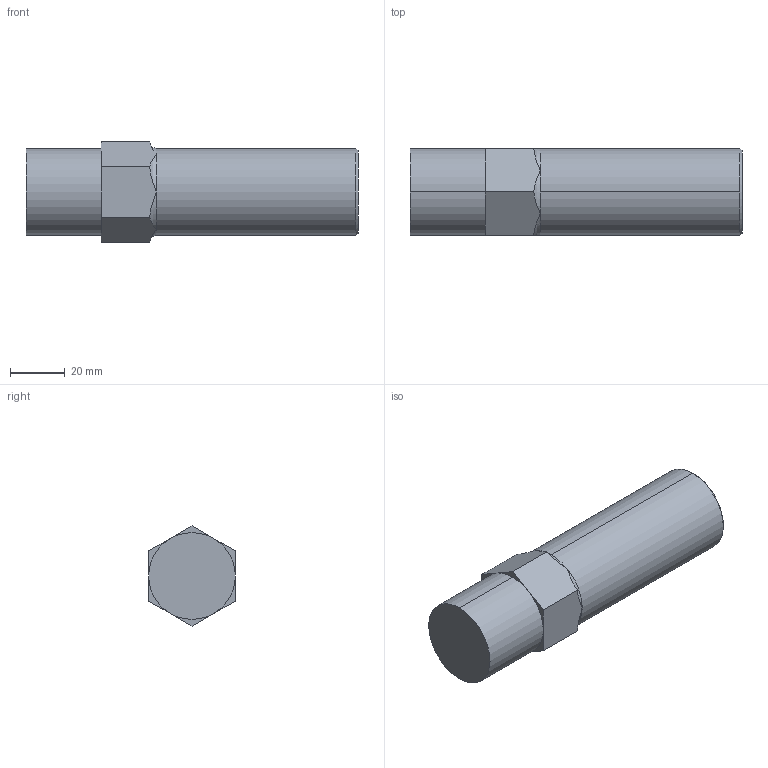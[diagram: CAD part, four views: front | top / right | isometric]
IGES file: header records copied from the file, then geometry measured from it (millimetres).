
Start section: SolidWorks IGES file using analytic representation for surfaces
Global section: file name: S:\Product Visuals\Defeatured Models and Parts Library\Parts Library IGES & STEP\Liquid Fittings\Front Mount liquid Fittings\Tubeout\60LPM\Fitting Tubeout 20.IGS; native system: SolidWorks 2012; preprocessor: SolidWorks 2012; author: rachel.dressel; date: 120926.155115; units: inch
Bounding box: 121.56 x 31.75 x 36.66 mm (x, y, z)
Volume: 97731.1 mm3; surface area: 13966.2 mm2
Topology: 1 solids, 1 shells, 33 faces, 78 edges, 47 vertices
Faces by surface type: plane 20, revolution 13
